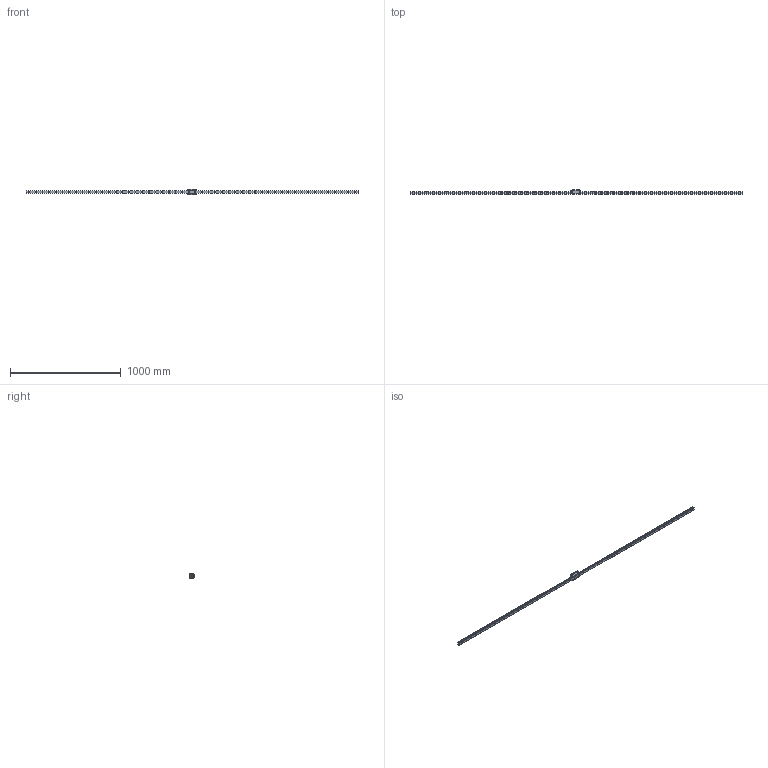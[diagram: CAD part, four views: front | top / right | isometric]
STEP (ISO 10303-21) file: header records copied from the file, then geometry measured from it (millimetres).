
FILE_DESCRIPTION(/* description */ ('STEP AP214'),/* implementation_level */ '2;1');
FILE_NAME(/* name */ 'HDR25R1SS-3000L_G30_0_B-M6F_1456-2_0_0_01',/* time_stamp */ '2023-06-30T12:29:02+02:00',/* author */ ('License CC BY-ND 4.0'),/* organization */ ('CADENAS'),/* preprocessor_version */ 'ST-DEVELOPER v19.3',/* originating_system */ 'PARTsolutions',/* authorisation */ ' ');
FILE_SCHEMA (('AUTOMOTIVE_DESIGN {1 0 10303 214 3 1 1}'));
Length unit declared in the file: millimetre
Products named in the file (4): HDR25R1SS-3000L_G30_0_B-M6F_1456-2_0_0_01; hsr_ftht_B-M6F_grease_nipple_joint; HDR25RSSB-M6F1 Slider; HDR25R1300030 Rail
Assembly tree (3 placements, depth 2):
  HDR25R1SS-3000L_G30_0_B-M6F_1456-2_0_0_01
    hsr_ftht_B-M6F_grease_nipple_joint
    HDR25RSSB-M6F1 Slider
    HDR25R1300030 Rail
Bounding box: 3000 x 39.98 x 48 mm (x, y, z)
Volume: 1384522.4 mm3; surface area: 345377.9 mm2
Topology: 3 solids, 3 shells, 372 faces, 898 edges, 587 vertices
Faces by surface type: cylinder 172, plane 170, cone 25, sphere 3, torus 2
Full cylindrical faces by diameter (mm): 4.917 x8, 5.2 x4, 6 x1, 7 x50, 8 x1, 11 x50
Entity records: 10503 total; most frequent: DIRECTION 1846, CARTESIAN_POINT 1803, ORIENTED_EDGE 1492, AXIS2_PLACEMENT_3D 748, EDGE_CURVE 746, FACE_BOUND 673, EDGE_LOOP 665, VERTEX_POINT 581
